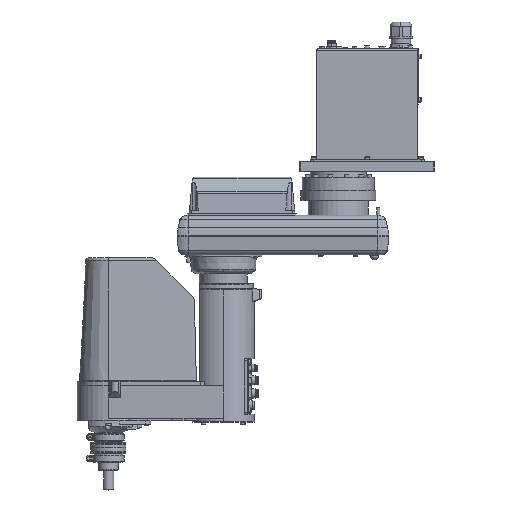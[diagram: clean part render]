
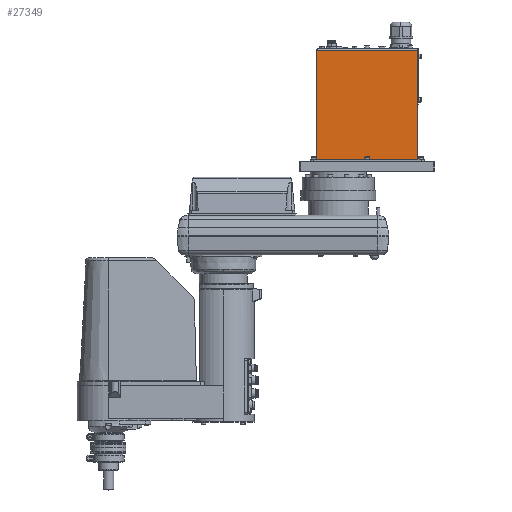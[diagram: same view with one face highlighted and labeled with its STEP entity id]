
A CAD part, top view. The second image highlights one B-rep face of the part: STEP entity #27349.
In plain terms, the highlighted planar face has unit normal (0, 0, 1).
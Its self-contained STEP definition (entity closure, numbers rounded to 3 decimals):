
#10429 = VERTEX_POINT( '', #30696 );
#14379 = EDGE_CURVE( '', #23125, #24043, #35116, .T. );
#15735 = EDGE_CURVE( '', #29469, #10429, #36640, .T. );
#18043 = EDGE_CURVE( '', #29469, #24043, #39210, .T. );
#18143 = EDGE_CURVE( '', #10429, #23125, #39318, .T. );
#23125 = VERTEX_POINT( '', #44870 );
#24043 = VERTEX_POINT( '', #45889 );
#27349 = ADVANCED_FACE( '', ( #49570 ), #49571, .F. );
#29469 = VERTEX_POINT( '', #51938 );
#30696 = CARTESIAN_POINT( '', ( -33., 169.5, 60. ) );
#35116 = LINE( '', #59703, #59704 );
#36640 = LINE( '', #61876, #61877 );
#39210 = LINE( '', #65538, #65539 );
#39318 = LINE( '', #65703, #65704 );
#44870 = CARTESIAN_POINT( '', ( 121., 169.5, 60. ) );
#45889 = CARTESIAN_POINT( '', ( 121., 3.5, 60. ) );
#49570 = FACE_OUTER_BOUND( '', #80198, .T. );
#49571 = PLANE( '', #80199 );
#51938 = CARTESIAN_POINT( '', ( -33., 3.5, 60. ) );
#59703 = CARTESIAN_POINT( '', ( 121., 86.5, 60. ) );
#59704 = VECTOR( '', #90712, 1. );
#61876 = CARTESIAN_POINT( '', ( -33., 169.5, 60. ) );
#61877 = VECTOR( '', #92600, 1. );
#65538 = CARTESIAN_POINT( '', ( -33.4, 3.5, 60. ) );
#65539 = VECTOR( '', #95535, 1. );
#65703 = CARTESIAN_POINT( '', ( -33.4, 169.5, 60. ) );
#65704 = VECTOR( '', #95659, 1. );
#80198 = EDGE_LOOP( '', ( #107633, #107634, #107635, #107636 ) );
#80199 = AXIS2_PLACEMENT_3D( '', #107637, #107638, #107639 );
#90712 = DIRECTION( '', ( 0., -1., 0. ) );
#92600 = DIRECTION( '', ( 0., 1., 0. ) );
#95535 = DIRECTION( '', ( 1., 0., 0. ) );
#95659 = DIRECTION( '', ( 1., 0., 0. ) );
#107633 = ORIENTED_EDGE( '', *, *, #14379, .F. );
#107634 = ORIENTED_EDGE( '', *, *, #18143, .F. );
#107635 = ORIENTED_EDGE( '', *, *, #15735, .F. );
#107636 = ORIENTED_EDGE( '', *, *, #18043, .T. );
#107637 = CARTESIAN_POINT( '', ( -33.4, 169.5, 60. ) );
#107638 = DIRECTION( '', ( 0., 0., -1. ) );
#107639 = DIRECTION( '', ( 0., 1., 0. ) );
